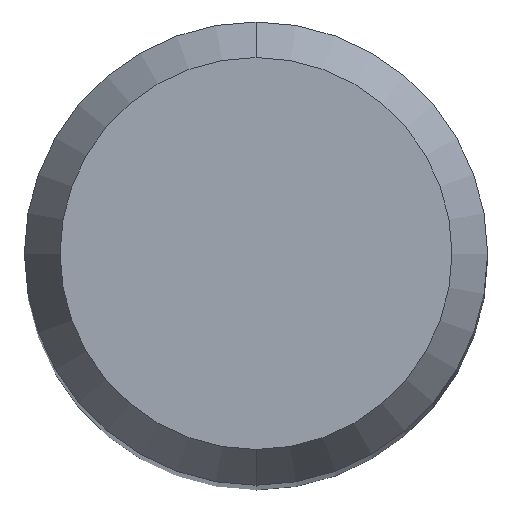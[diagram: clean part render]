
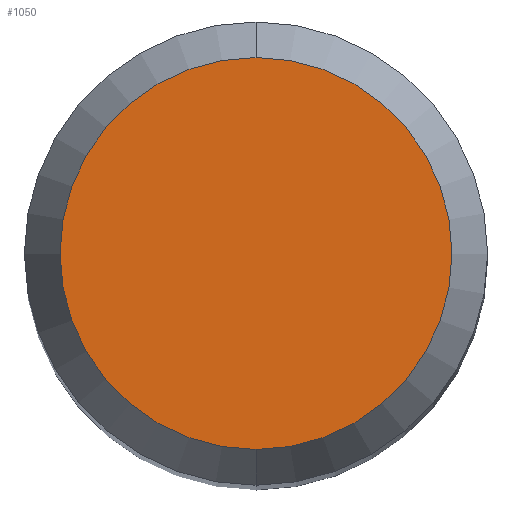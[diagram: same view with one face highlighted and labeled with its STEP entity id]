
A CAD part, top view. The second image highlights one B-rep face of the part: STEP entity #1050.
In plain terms, the highlighted planar face has unit normal (0, 0, 1).
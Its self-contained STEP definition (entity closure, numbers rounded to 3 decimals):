
#742=VERTEX_POINT('',#2003);
#850=VERTEX_POINT('',#2122);
#1050=ADVANCED_FACE('',(#2340),#2341,.T.);
#1300=EDGE_CURVE('',#850,#742,#2614,.T.);
#1540=EDGE_CURVE('',#742,#850,#2873,.T.);
#2003=CARTESIAN_POINT('',(0.,-2.538,0.0));
#2122=CARTESIAN_POINT('',(0.0,2.538,0.0));
#2340=FACE_OUTER_BOUND('',#7100,.T.);
#2341=PLANE('',#7101);
#2614=CIRCLE('',#9208,2.538);
#2873=CIRCLE('',#11616,2.538);
#7100=EDGE_LOOP('',(#14851,#14852));
#7101=AXIS2_PLACEMENT_3D('',#14853,#14854,#14855);
#9208=AXIS2_PLACEMENT_3D('',#15147,#15148,#15149);
#11616=AXIS2_PLACEMENT_3D('',#15389,#15390,#15391);
#14851=ORIENTED_EDGE('',*,*,#1300,.F.);
#14852=ORIENTED_EDGE('',*,*,#1540,.F.);
#14853=CARTESIAN_POINT('',(0.0,1.269,0.0));
#14854=DIRECTION('',(-0.0,0.0,1.0));
#14855=DIRECTION('',(0.0,-1.0,0.0));
#15147=CARTESIAN_POINT('',(0.0,0.0,0.0));
#15148=DIRECTION('',(0.0,0.0,-1.0));
#15149=DIRECTION('',(0.0,1.0,0.0));
#15389=CARTESIAN_POINT('',(0.0,0.0,0.0));
#15390=DIRECTION('',(0.0,0.0,-1.0));
#15391=DIRECTION('',(0.0,1.0,0.0));
